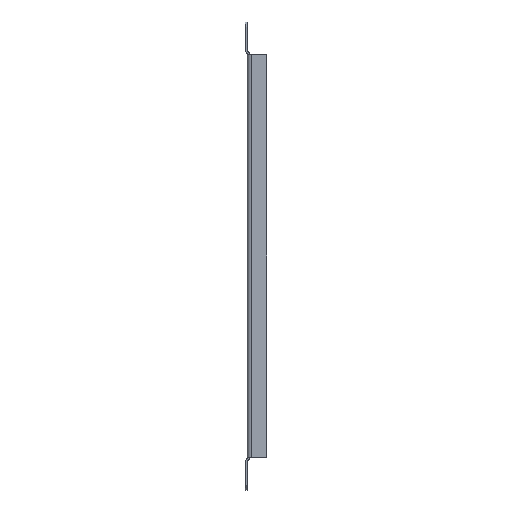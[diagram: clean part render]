
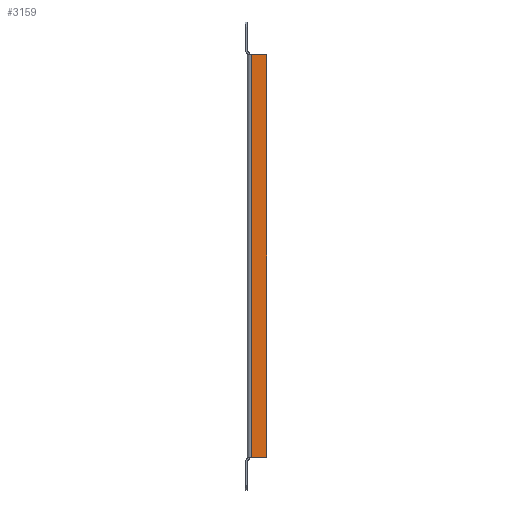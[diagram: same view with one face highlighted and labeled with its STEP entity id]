
A CAD part, front view. The second image highlights one B-rep face of the part: STEP entity #3159.
In plain terms, the highlighted planar face has unit normal (0, -1, 0).
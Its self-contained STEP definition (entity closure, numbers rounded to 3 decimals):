
#35 = DIRECTION ( 'NONE',  ( 1., 0., 0. ) ) ;
#172 = CARTESIAN_POINT ( 'NONE',  ( 2.4, -12.5, 125.5 ) ) ;
#195 = AXIS2_PLACEMENT_3D ( 'NONE', #3260, #757, #3474 ) ;
#291 = DIRECTION ( 'NONE',  ( 0., -1., 0. ) ) ;
#412 = CARTESIAN_POINT ( 'NONE',  ( 2.4, -12.5, -125.5 ) ) ;
#426 = VECTOR ( 'NONE', #3496, 1000. ) ;
#683 = VECTOR ( 'NONE', #2583, 1000. ) ;
#698 = VERTEX_POINT ( 'NONE', #3038 ) ;
#757 = DIRECTION ( 'NONE',  ( 0., -1., 0. ) ) ;
#766 = PLANE ( 'NONE',  #1337 ) ;
#932 = EDGE_CURVE ( 'NONE', #1850, #2106, #3435, .T. ) ;
#976 = LINE ( 'NONE', #2452, #426 ) ;
#980 = ORIENTED_EDGE ( 'NONE', *, *, #3434, .F. ) ;
#1020 = VERTEX_POINT ( 'NONE', #172 ) ;
#1078 = DIRECTION ( 'NONE',  ( 1., 0., 0. ) ) ;
#1123 = VERTEX_POINT ( 'NONE', #1703 ) ;
#1136 = ORIENTED_EDGE ( 'NONE', *, *, #1431, .T. ) ;
#1204 = LINE ( 'NONE', #1754, #2841 ) ;
#1337 = AXIS2_PLACEMENT_3D ( 'NONE', #1883, #2975, #1078 ) ;
#1431 = EDGE_CURVE ( 'NONE', #1020, #2106, #976, .T. ) ;
#1499 = CIRCLE ( 'NONE', #3537, 0.5 ) ;
#1500 = DIRECTION ( 'NONE',  ( -1., 0., 0. ) ) ;
#1525 = CARTESIAN_POINT ( 'NONE',  ( 11.5, -12.5, -125.5 ) ) ;
#1532 = CARTESIAN_POINT ( 'NONE',  ( 0., -12.5, -125.5 ) ) ;
#1571 = FACE_OUTER_BOUND ( 'NONE', #3549, .T. ) ;
#1625 = CARTESIAN_POINT ( 'NONE',  ( 11.5, -12.5, 125. ) ) ;
#1703 = CARTESIAN_POINT ( 'NONE',  ( 11.5, -12.5, 125.5 ) ) ;
#1754 = CARTESIAN_POINT ( 'NONE',  ( 12., -12.5, 125.5 ) ) ;
#1805 = EDGE_CURVE ( 'NONE', #1850, #3198, #3061, .T. ) ;
#1850 = VERTEX_POINT ( 'NONE', #1525 ) ;
#1883 = CARTESIAN_POINT ( 'NONE',  ( 0., -12.5, 125.5 ) ) ;
#1944 = CARTESIAN_POINT ( 'NONE',  ( 12., -12.5, -125. ) ) ;
#2093 = LINE ( 'NONE', #2314, #683 ) ;
#2106 = VERTEX_POINT ( 'NONE', #412 ) ;
#2314 = CARTESIAN_POINT ( 'NONE',  ( 0., -12.5, 125.5 ) ) ;
#2408 = ORIENTED_EDGE ( 'NONE', *, *, #932, .F. ) ;
#2439 = EDGE_CURVE ( 'NONE', #698, #1123, #1499, .T. ) ;
#2452 = CARTESIAN_POINT ( 'NONE',  ( 2.4, -12.5, 125.5 ) ) ;
#2583 = DIRECTION ( 'NONE',  ( -1., 0., 0. ) ) ;
#2628 = DIRECTION ( 'NONE',  ( 0., 0., -1. ) ) ;
#2841 = VECTOR ( 'NONE', #2628, 1000. ) ;
#2975 = DIRECTION ( 'NONE',  ( 0., -1., 0. ) ) ;
#3000 = EDGE_CURVE ( 'NONE', #1123, #1020, #2093, .T. ) ;
#3038 = CARTESIAN_POINT ( 'NONE',  ( 12., -12.5, 125. ) ) ;
#3050 = VECTOR ( 'NONE', #1500, 1000. ) ;
#3061 = CIRCLE ( 'NONE', #195, 0.5 ) ;
#3083 = ORIENTED_EDGE ( 'NONE', *, *, #3000, .T. ) ;
#3159 = ADVANCED_FACE ( 'NONE', ( #1571 ), #766, .T. ) ;
#3198 = VERTEX_POINT ( 'NONE', #1944 ) ;
#3260 = CARTESIAN_POINT ( 'NONE',  ( 11.5, -12.5, -125. ) ) ;
#3293 = ORIENTED_EDGE ( 'NONE', *, *, #1805, .T. ) ;
#3434 = EDGE_CURVE ( 'NONE', #698, #3198, #1204, .T. ) ;
#3435 = LINE ( 'NONE', #1532, #3050 ) ;
#3474 = DIRECTION ( 'NONE',  ( 1., 0., 0. ) ) ;
#3496 = DIRECTION ( 'NONE',  ( 0., 0., -1. ) ) ;
#3537 = AXIS2_PLACEMENT_3D ( 'NONE', #1625, #291, #35 ) ;
#3549 = EDGE_LOOP ( 'NONE', ( #980, #3580, #3083, #1136, #2408, #3293 ) ) ;
#3580 = ORIENTED_EDGE ( 'NONE', *, *, #2439, .T. ) ;
